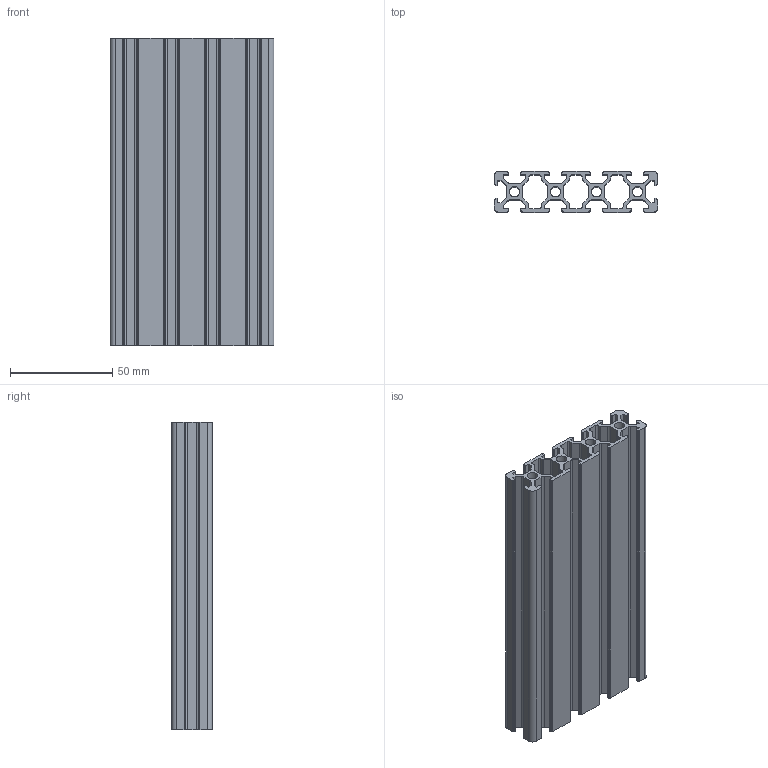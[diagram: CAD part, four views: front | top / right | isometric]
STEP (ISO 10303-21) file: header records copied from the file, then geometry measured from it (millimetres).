
FILE_DESCRIPTION((''),'2;1');
FILE_NAME('E:\catalogue and flyer\Profile catalogue 2015\profile-step file,31MAr16\PS2080-6.stp','2016-03-31T13:46:21',('h029'),(''),'Autodesk Inventor 11','Autodesk Inventor 11','');
FILE_SCHEMA(('AUTOMOTIVE_DESIGN { 1 0 10303 214 1 1 1 1 }'));
Length unit declared in the file: millimetre
Products named in the file (1): PS2080-6
Bounding box: 80 x 20 x 150 mm (x, y, z)
Volume: 81370 mm3; surface area: 88090.3 mm2
Topology: 1 solids, 1 shells, 306 faces, 912 edges, 608 vertices
Faces by surface type: plane 182, cylinder 124
Full cylindrical faces by diameter (mm): 5 x4
Entity records: 10335 total; most frequent: CARTESIAN_POINT 1823, ORIENTED_EDGE 1816, DIRECTION 1770, EDGE_CURVE 908, VECTOR 660, LINE 660, VERTEX_POINT 608, AXIS2_PLACEMENT_3D 555
